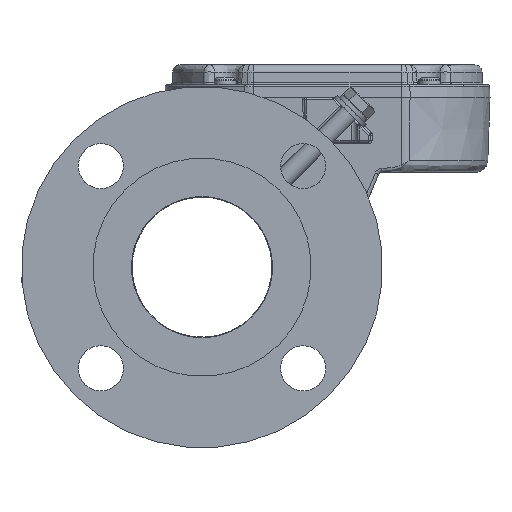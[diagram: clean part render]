
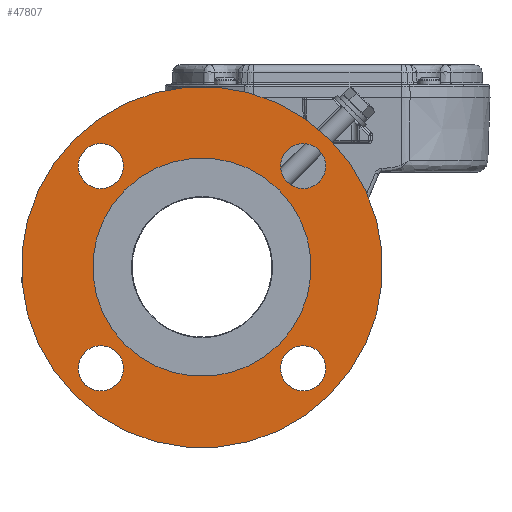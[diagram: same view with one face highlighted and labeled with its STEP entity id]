
A CAD part, front view. The second image highlights one B-rep face of the part: STEP entity #47807.
In plain terms, the highlighted planar face has unit normal (0, -1, 0).
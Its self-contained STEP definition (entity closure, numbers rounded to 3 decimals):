
#760 = ORIENTED_EDGE ( 'NONE', *, *, #1783, .T. ) ;
#1201 = FACE_BOUND ( 'NONE', #93658, .T. ) ;
#1474 = VERTEX_POINT ( 'NONE', #76361 ) ;
#1783 = EDGE_CURVE ( 'NONE', #62584, #34882, #59190, .T. ) ;
#2046 = DIRECTION ( 'NONE',  ( 0., 1., 0. ) ) ;
#3541 = EDGE_CURVE ( 'NONE', #94192, #95106, #78472, .T. ) ;
#5362 = ORIENTED_EDGE ( 'NONE', *, *, #43589, .T. ) ;
#6117 = AXIS2_PLACEMENT_3D ( 'NONE', #72681, #80364, #6868 ) ;
#6868 = DIRECTION ( 'NONE',  ( -0.707, 0., -0.707 ) ) ;
#7805 = AXIS2_PLACEMENT_3D ( 'NONE', #49235, #93932, #72313 ) ;
#7848 = VERTEX_POINT ( 'NONE', #46810 ) ;
#8516 = CARTESIAN_POINT ( 'NONE',  ( -42.656, -123.413, 42.656 ) ) ;
#8895 = DIRECTION ( 'NONE',  ( -0.707, 0., -0.707 ) ) ;
#10377 = VERTEX_POINT ( 'NONE', #60417 ) ;
#15044 = AXIS2_PLACEMENT_3D ( 'NONE', #45692, #15983, #16453 ) ;
#15983 = DIRECTION ( 'NONE',  ( 0., 1., 0. ) ) ;
#16453 = DIRECTION ( 'NONE',  ( -0.707, 0., -0.707 ) ) ;
#16814 = ORIENTED_EDGE ( 'NONE', *, *, #24282, .T. ) ;
#17264 = VERTEX_POINT ( 'NONE', #89143 ) ;
#18010 = FACE_OUTER_BOUND ( 'NONE', #71931, .T. ) ;
#18183 = EDGE_CURVE ( 'NONE', #58528, #63505, #63294, .T. ) ;
#18722 = AXIS2_PLACEMENT_3D ( 'NONE', #8516, #53150, #82489 ) ;
#19932 = AXIS2_PLACEMENT_3D ( 'NONE', #45711, #2046, #62091 ) ;
#23306 = FACE_BOUND ( 'NONE', #24981, .T. ) ;
#23310 = AXIS2_PLACEMENT_3D ( 'NONE', #46295, #30499, #31457 ) ;
#23485 = CIRCLE ( 'NONE', #85108, 9.525 ) ;
#23514 = CARTESIAN_POINT ( 'NONE',  ( -49.391, -123.413, -49.391 ) ) ;
#23596 = CARTESIAN_POINT ( 'NONE',  ( 32.553, -123.413, 32.553 ) ) ;
#24282 = EDGE_CURVE ( 'NONE', #95106, #94192, #89145, .T. ) ;
#24721 = CARTESIAN_POINT ( 'NONE',  ( 42.656, -123.413, -42.656 ) ) ;
#24981 = EDGE_LOOP ( 'NONE', ( #58881, #16814 ) ) ;
#28774 = CARTESIAN_POINT ( 'NONE',  ( -49.391, -123.413, 35.921 ) ) ;
#29468 = EDGE_CURVE ( 'NONE', #34882, #62584, #66299, .T. ) ;
#30499 = DIRECTION ( 'NONE',  ( 0., -1., 0. ) ) ;
#31457 = DIRECTION ( 'NONE',  ( 0.707, 0., 0.707 ) ) ;
#32194 = CARTESIAN_POINT ( 'NONE',  ( -35.921, -123.413, -35.921 ) ) ;
#32670 = CIRCLE ( 'NONE', #94037, 76.2 ) ;
#32750 = EDGE_CURVE ( 'NONE', #89958, #53759, #44409, .T. ) ;
#34882 = VERTEX_POINT ( 'NONE', #55060 ) ;
#36384 = EDGE_CURVE ( 'NONE', #10377, #17264, #75193, .T. ) ;
#36461 = CARTESIAN_POINT ( 'NONE',  ( 0., -123.413, 0. ) ) ;
#39030 = EDGE_LOOP ( 'NONE', ( #760, #42477 ) ) ;
#39109 = FACE_BOUND ( 'NONE', #39030, .T. ) ;
#39455 = DIRECTION ( 'NONE',  ( 0., 1., 0. ) ) ;
#40447 = ORIENTED_EDGE ( 'NONE', *, *, #47953, .T. ) ;
#42477 = ORIENTED_EDGE ( 'NONE', *, *, #29468, .T. ) ;
#43589 = EDGE_CURVE ( 'NONE', #53759, #89958, #84456, .T. ) ;
#44409 = CIRCLE ( 'NONE', #19932, 9.525 ) ;
#44722 = AXIS2_PLACEMENT_3D ( 'NONE', #24721, #74724, #8895 ) ;
#44774 = CARTESIAN_POINT ( 'NONE',  ( 42.656, -123.413, 42.656 ) ) ;
#45692 = CARTESIAN_POINT ( 'NONE',  ( -42.656, -123.413, 42.656 ) ) ;
#45711 = CARTESIAN_POINT ( 'NONE',  ( -42.656, -123.413, -42.656 ) ) ;
#46169 = AXIS2_PLACEMENT_3D ( 'NONE', #90908, #69276, #75047 ) ;
#46295 = CARTESIAN_POINT ( 'NONE',  ( 0., -123.413, 0. ) ) ;
#46787 = FACE_BOUND ( 'NONE', #89504, .T. ) ;
#46810 = CARTESIAN_POINT ( 'NONE',  ( 49.391, -123.413, -35.921 ) ) ;
#47605 = CARTESIAN_POINT ( 'NONE',  ( 42.656, -123.413, 42.656 ) ) ;
#47807 = ADVANCED_FACE ( 'NONE', ( #18010, #23306, #46787, #53060, #1201, #39109 ), #54505, .T. ) ;
#47953 = EDGE_CURVE ( 'NONE', #7848, #1474, #73935, .T. ) ;
#48303 = EDGE_CURVE ( 'NONE', #63505, #58528, #69422, .T. ) ;
#49235 = CARTESIAN_POINT ( 'NONE',  ( 0., -123.413, 0. ) ) ;
#50224 = CARTESIAN_POINT ( 'NONE',  ( -32.553, -123.413, -32.553 ) ) ;
#51812 = CARTESIAN_POINT ( 'NONE',  ( -42.656, -123.413, -42.656 ) ) ;
#53060 = FACE_BOUND ( 'NONE', #75938, .T. ) ;
#53150 = DIRECTION ( 'NONE',  ( 0., 1., 0. ) ) ;
#53759 = VERTEX_POINT ( 'NONE', #23514 ) ;
#54505 = PLANE ( 'NONE',  #23310 ) ;
#55060 = CARTESIAN_POINT ( 'NONE',  ( -35.921, -123.413, 49.391 ) ) ;
#56096 = ORIENTED_EDGE ( 'NONE', *, *, #32750, .T. ) ;
#56305 = ORIENTED_EDGE ( 'NONE', *, *, #36384, .F. ) ;
#57081 = AXIS2_PLACEMENT_3D ( 'NONE', #44774, #89518, #81827 ) ;
#58137 = ORIENTED_EDGE ( 'NONE', *, *, #48303, .T. ) ;
#58235 = ORIENTED_EDGE ( 'NONE', *, *, #71023, .F. ) ;
#58528 = VERTEX_POINT ( 'NONE', #76130 ) ;
#58566 = DIRECTION ( 'NONE',  ( 0., 1., 0. ) ) ;
#58881 = ORIENTED_EDGE ( 'NONE', *, *, #3541, .T. ) ;
#59190 = CIRCLE ( 'NONE', #15044, 9.525 ) ;
#60417 = CARTESIAN_POINT ( 'NONE',  ( 53.882, -123.413, 53.882 ) ) ;
#62091 = DIRECTION ( 'NONE',  ( -0.707, 0., -0.707 ) ) ;
#62584 = VERTEX_POINT ( 'NONE', #28774 ) ;
#63294 = CIRCLE ( 'NONE', #57081, 9.525 ) ;
#63505 = VERTEX_POINT ( 'NONE', #93300 ) ;
#64741 = DIRECTION ( 'NONE',  ( 0., 1., 0. ) ) ;
#64795 = AXIS2_PLACEMENT_3D ( 'NONE', #47605, #39455, #67357 ) ;
#66299 = CIRCLE ( 'NONE', #18722, 9.525 ) ;
#67210 = DIRECTION ( 'NONE',  ( 0., 1., 0. ) ) ;
#67357 = DIRECTION ( 'NONE',  ( -0.707, 0., -0.707 ) ) ;
#69276 = DIRECTION ( 'NONE',  ( 0., 1., 0. ) ) ;
#69422 = CIRCLE ( 'NONE', #64795, 9.525 ) ;
#71023 = EDGE_CURVE ( 'NONE', #17264, #10377, #32670, .T. ) ;
#71931 = EDGE_LOOP ( 'NONE', ( #58235, #56305 ) ) ;
#72313 = DIRECTION ( 'NONE',  ( 0.707, 0., 0.707 ) ) ;
#72681 = CARTESIAN_POINT ( 'NONE',  ( 0., -123.413, 0. ) ) ;
#72944 = EDGE_CURVE ( 'NONE', #1474, #7848, #23485, .T. ) ;
#73935 = CIRCLE ( 'NONE', #44722, 9.525 ) ;
#74724 = DIRECTION ( 'NONE',  ( 0., 1., 0. ) ) ;
#75047 = DIRECTION ( 'NONE',  ( 0.707, 0., 0.707 ) ) ;
#75193 = CIRCLE ( 'NONE', #6117, 76.2 ) ;
#75938 = EDGE_LOOP ( 'NONE', ( #77750, #40447 ) ) ;
#76130 = CARTESIAN_POINT ( 'NONE',  ( 49.391, -123.413, 49.391 ) ) ;
#76361 = CARTESIAN_POINT ( 'NONE',  ( 35.921, -123.413, -49.391 ) ) ;
#77750 = ORIENTED_EDGE ( 'NONE', *, *, #72944, .T. ) ;
#78472 = CIRCLE ( 'NONE', #46169, 46.038 ) ;
#78840 = ORIENTED_EDGE ( 'NONE', *, *, #18183, .T. ) ;
#80364 = DIRECTION ( 'NONE',  ( 0., 1., 0. ) ) ;
#81142 = DIRECTION ( 'NONE',  ( -0.707, 0., -0.707 ) ) ;
#81331 = AXIS2_PLACEMENT_3D ( 'NONE', #51812, #67210, #81142 ) ;
#81827 = DIRECTION ( 'NONE',  ( -0.707, 0., -0.707 ) ) ;
#82489 = DIRECTION ( 'NONE',  ( -0.707, 0., -0.707 ) ) ;
#84456 = CIRCLE ( 'NONE', #81331, 9.525 ) ;
#85108 = AXIS2_PLACEMENT_3D ( 'NONE', #86847, #64741, #94044 ) ;
#86847 = CARTESIAN_POINT ( 'NONE',  ( 42.656, -123.413, -42.656 ) ) ;
#89143 = CARTESIAN_POINT ( 'NONE',  ( -53.882, -123.413, -53.882 ) ) ;
#89145 = CIRCLE ( 'NONE', #7805, 46.038 ) ;
#89504 = EDGE_LOOP ( 'NONE', ( #58137, #78840 ) ) ;
#89518 = DIRECTION ( 'NONE',  ( 0., 1., 0. ) ) ;
#89958 = VERTEX_POINT ( 'NONE', #32194 ) ;
#90908 = CARTESIAN_POINT ( 'NONE',  ( 0., -123.413, 0. ) ) ;
#93300 = CARTESIAN_POINT ( 'NONE',  ( 35.921, -123.413, 35.921 ) ) ;
#93658 = EDGE_LOOP ( 'NONE', ( #5362, #56096 ) ) ;
#93932 = DIRECTION ( 'NONE',  ( 0., 1., 0. ) ) ;
#94037 = AXIS2_PLACEMENT_3D ( 'NONE', #36461, #58566, #95078 ) ;
#94044 = DIRECTION ( 'NONE',  ( -0.707, 0., -0.707 ) ) ;
#94192 = VERTEX_POINT ( 'NONE', #23596 ) ;
#95078 = DIRECTION ( 'NONE',  ( -0.707, 0., -0.707 ) ) ;
#95106 = VERTEX_POINT ( 'NONE', #50224 ) ;
